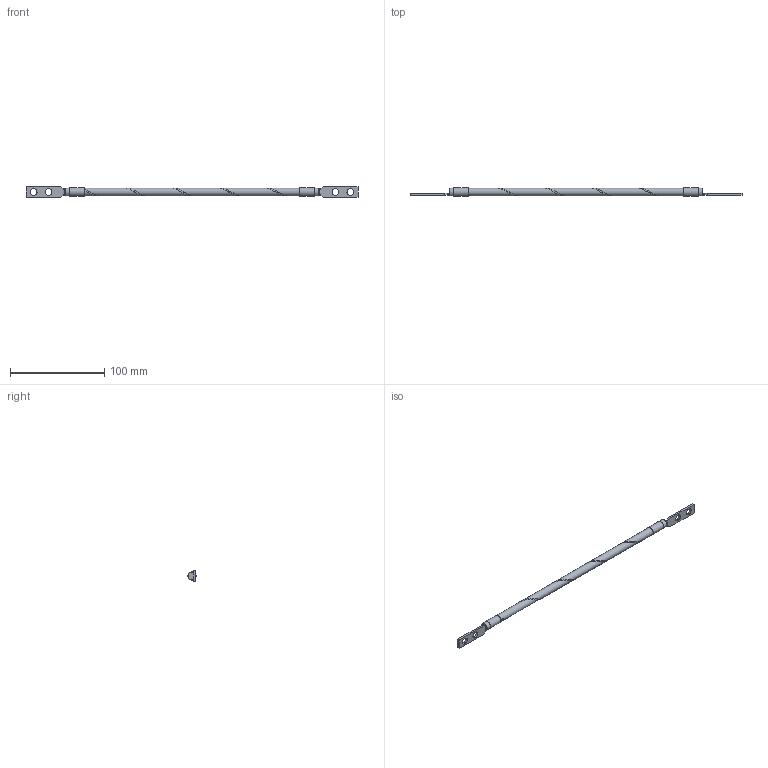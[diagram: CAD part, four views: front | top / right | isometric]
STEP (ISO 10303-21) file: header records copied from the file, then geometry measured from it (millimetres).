
FILE_DESCRIPTION(/* description */ (''),/* implementation_level */ '2;1');
FILE_NAME(/* name */ 'E:\Dutton\Manufacturing\drawings\Dutton Files\Ground Kits\BWK6A12.stp',/* time_stamp */ '2023-09-07T14:15:23-04:00',/* author */ ('tfoster'),/* organization */ (''),/* preprocessor_version */ 'ST-DEVELOPER v19',/* originating_system */ 'Autodesk Inventor 2023',/* authorisation */ '');
FILE_SCHEMA (('AUTOMOTIVE_DESIGN { 1 0 10303 214 3 1 1 }'));
Length unit declared in the file: millimetre
Products named in the file (1): BWK6A12
Bounding box: 352.86 x 8.64 x 11.18 mm (x, y, z)
Volume: 16264.7 mm3; surface area: 9922.3 mm2
Topology: 1 solids, 1 shells, 41 faces, 107 edges, 74 vertices
Faces by surface type: plane 20, cylinder 11, bspline 10
Full cylindrical faces by diameter (mm): 7.137 x4, 8.255 x1, 8.382 x2, 8.636 x2
Entity records: 2545 total; most frequent: CARTESIAN_POINT 1400, ORIENTED_EDGE 214, DIRECTION 189, EDGE_CURVE 107, VERTEX_POINT 74, LINE 65, VECTOR 65, AXIS2_PLACEMENT_3D 62
